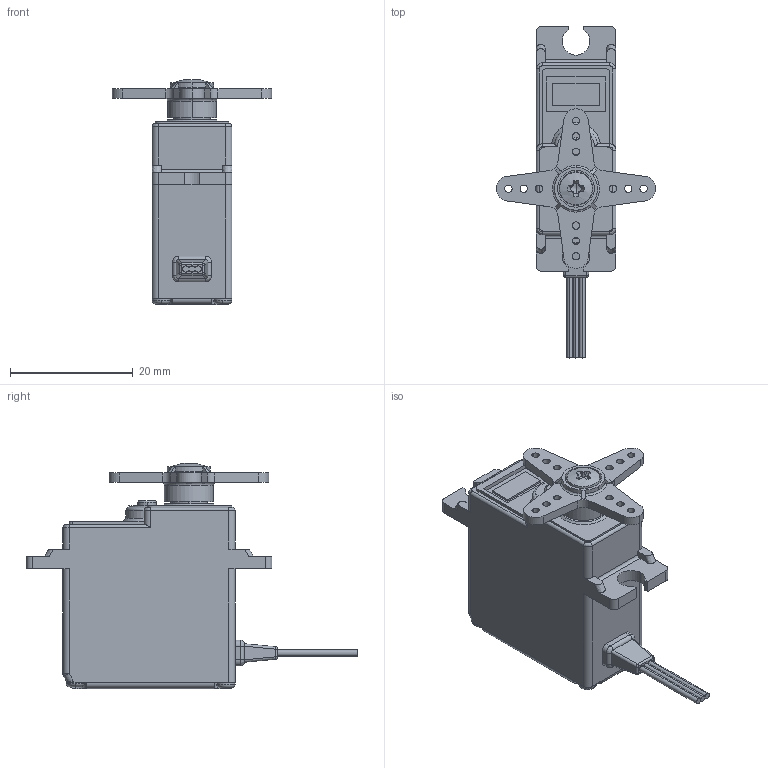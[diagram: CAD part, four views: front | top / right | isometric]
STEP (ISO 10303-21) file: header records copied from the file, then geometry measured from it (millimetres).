
FILE_DESCRIPTION (( 'STEP AP203' ), '1' );
FILE_NAME ('AD1AC(3D).STEP', '2022-12-06T07:04:33', ( '' ), ( '' ), 'SwSTEP 2.0', 'SolidWorks 2022', '' );
FILE_SCHEMA (( 'CONFIG_CONTROL_DESIGN' ));
Length unit declared in the file: millimetre
Products named in the file (4): AD1AC; SCREW M2.6x5; AD1AC(3D); HORN
Assembly tree (3 placements, depth 2):
  AD1AC(3D)
    AD1AC
    HORN
    SCREW M2.6x5
Bounding box: 25.99 x 54 x 36.66 mm (x, y, z)
Volume: 11249 mm3; surface area: 4637.2 mm2
Topology: 3 solids, 3 shells, 340 faces, 892 edges, 569 vertices
Faces by surface type: cylinder 138, plane 135, bspline 37, cone 22, torus 8
Entity records: 12178 total; most frequent: CARTESIAN_POINT 3449, ORIENTED_EDGE 1776, DIRECTION 1721, EDGE_CURVE 888, AXIS2_PLACEMENT_3D 634, VERTEX_POINT 569, VECTOR 453, LINE 453
